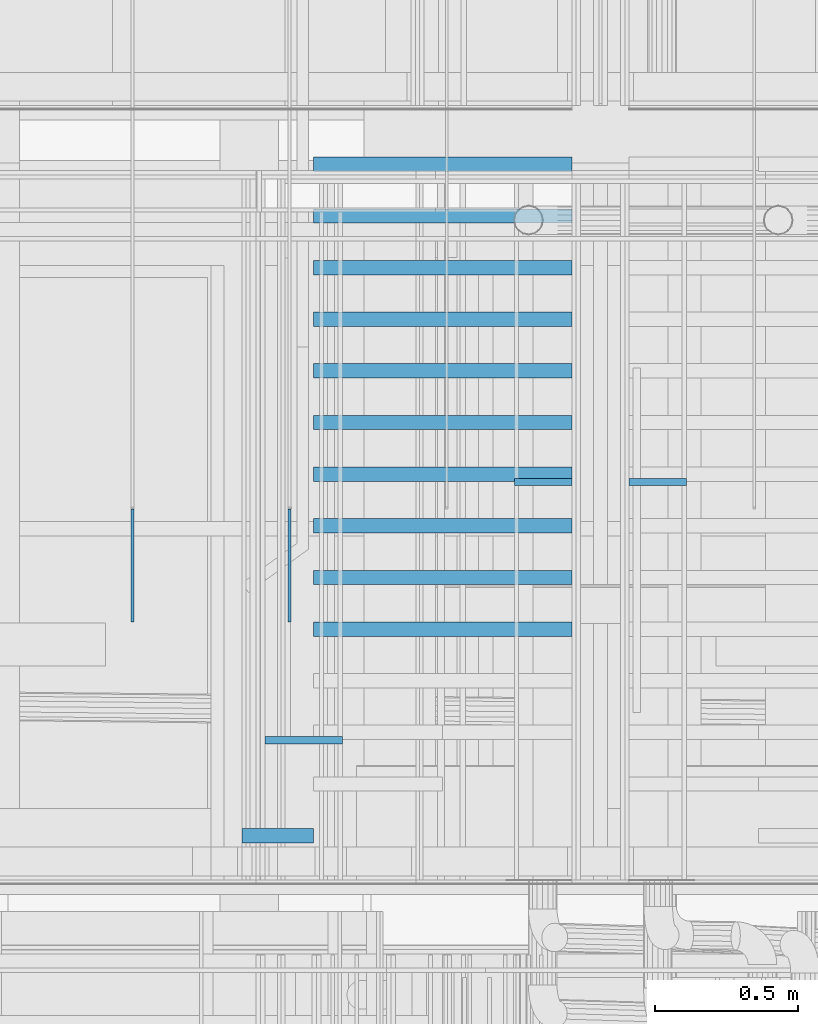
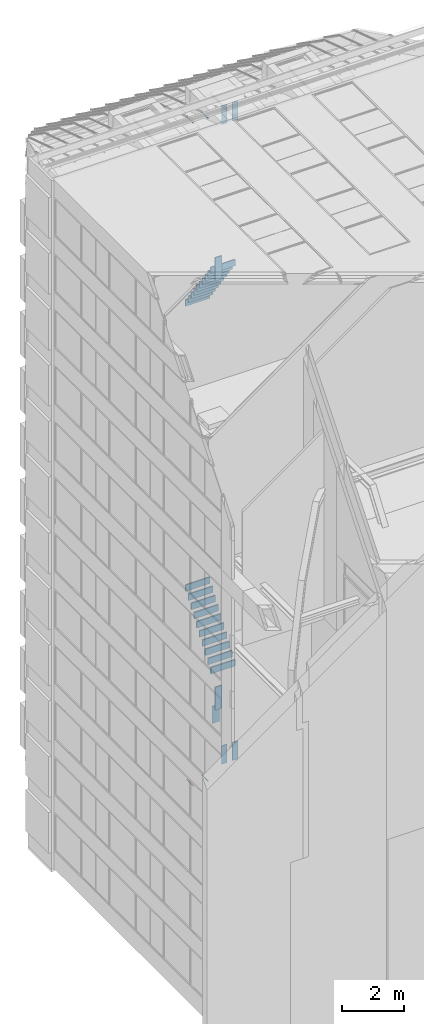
# One storey, part 303 of 583: 31 slabs.
"""IFC2X3 building model written with IfcOpenShell, lengths in metres."""

from ifc_helpers import new_model, entity, si_unit, converted_unit, derived_unit, money_unit, direction, frame, origin_with_axes, place, context, subcontext, project, spatial, faceted_brep, material, type_object, element, save


model = new_model("IFC2X3")

# Units and contexts
model_context = context("Model", 3, precision=1e-05, world=origin_with_axes(), true_north=direction((0.0, 1.0)))
body_context = subcontext(model_context, "Body", "Model", "MODEL_VIEW", scale=1.0)
ifc_project = project(units=[si_unit("LENGTHUNIT", "METRE"), si_unit("AREAUNIT", "SQUARE_METRE"), si_unit("VOLUMEUNIT", "CUBIC_METRE"), si_unit("ABSORBEDDOSEUNIT", "GRAY"), si_unit("AMOUNTOFSUBSTANCEUNIT", "MOLE"), si_unit("DOSEEQUIVALENTUNIT", "SIEVERT"), si_unit("ELECTRICCAPACITANCEUNIT", "FARAD"), si_unit("ELECTRICCHARGEUNIT", "COULOMB"), si_unit("ELECTRICCONDUCTANCEUNIT", "SIEMENS"), si_unit("ELECTRICCURRENTUNIT", "AMPERE"), si_unit("ELECTRICRESISTANCEUNIT", "OHM"), si_unit("ELECTRICVOLTAGEUNIT", "VOLT"), si_unit("ENERGYUNIT", "JOULE"), si_unit("FORCEUNIT", "NEWTON"), si_unit("FREQUENCYUNIT", "HERTZ"), si_unit("ILLUMINANCEUNIT", "LUX"), si_unit("INDUCTANCEUNIT", "HENRY"), si_unit("LUMINOUSFLUXUNIT", "LUMEN"), si_unit("LUMINOUSINTENSITYUNIT", "CANDELA"), si_unit("MAGNETICFLUXDENSITYUNIT", "TESLA"), si_unit("MAGNETICFLUXUNIT", "WEBER"), si_unit("MASSUNIT", "GRAM"), converted_unit("PLANEANGLEUNIT", "degree", entity("IfcReal", 0.0174532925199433), si_unit("PLANEANGLEUNIT", "RADIAN"), dimensions=[0, 0, 0, 0, 0, 0, 0]), si_unit("POWERUNIT", "WATT"), si_unit("PRESSUREUNIT", "PASCAL"), si_unit("RADIOACTIVITYUNIT", "BECQUEREL"), si_unit("SOLIDANGLEUNIT", "STERADIAN"), si_unit("THERMODYNAMICTEMPERATUREUNIT", "KELVIN"), si_unit("TIMEUNIT", "SECOND"), derived_unit("ACCELERATIONUNIT", [(si_unit("LENGTHUNIT", "METRE"), 1), (si_unit("TIMEUNIT", "SECOND"), -2)]), derived_unit("ANGULARVELOCITYUNIT", [(converted_unit("PLANEANGLEUNIT", "degree", entity("IfcReal", 0.0174532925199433), si_unit("PLANEANGLEUNIT", "RADIAN"), dimensions=[0, 0, 0, 0, 0, 0, 0]), 1), (si_unit("TIMEUNIT", "SECOND"), -1)]), derived_unit("CURVATUREUNIT", [(converted_unit("PLANEANGLEUNIT", "degree", entity("IfcReal", 0.0174532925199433), si_unit("PLANEANGLEUNIT", "RADIAN"), dimensions=[0, 0, 0, 0, 0, 0, 0]), 1), (si_unit("LENGTHUNIT", "METRE"), -1)]), derived_unit("DYNAMICVISCOSITYUNIT", [(si_unit("PRESSUREUNIT", "PASCAL"), 1), (si_unit("TIMEUNIT", "SECOND"), 1)]), derived_unit("HEATFLUXDENSITYUNIT", [(si_unit("POWERUNIT", "WATT"), 1), (si_unit("LENGTHUNIT", "METRE"), -2)]), derived_unit("HEATINGVALUEUNIT", [(si_unit("ENERGYUNIT", "JOULE"), 1), (si_unit("MASSUNIT", "GRAM"), -1)]), derived_unit("INTEGERCOUNTRATEUNIT", [(si_unit("TIMEUNIT", "SECOND"), -1)]), derived_unit("IONCONCENTRATIONUNIT", [(si_unit("MASSUNIT", "GRAM"), 1), (si_unit("VOLUMEUNIT", "CUBIC_METRE"), -1)]), derived_unit("ISOTHERMALMOISTURECAPACITYUNIT", [(si_unit("VOLUMEUNIT", "CUBIC_METRE"), 1), (si_unit("MASSUNIT", "GRAM"), -1)]), derived_unit("KINEMATICVISCOSITYUNIT", [(si_unit("AREAUNIT", "SQUARE_METRE"), 1), (si_unit("TIMEUNIT", "SECOND"), -1)]), derived_unit("LINEARFORCEUNIT", [(si_unit("FORCEUNIT", "NEWTON"), 1), (si_unit("LENGTHUNIT", "METRE"), -1)]), derived_unit("LINEARMOMENTUNIT", [(si_unit("FORCEUNIT", "NEWTON"), 1), (si_unit("LENGTHUNIT", "METRE"), -1)]), derived_unit("LINEARSTIFFNESSUNIT", [(si_unit("FORCEUNIT", "NEWTON"), 1), (si_unit("LENGTHUNIT", "METRE"), -1)]), derived_unit("LINEARVELOCITYUNIT", [(si_unit("LENGTHUNIT", "METRE"), 1), (si_unit("TIMEUNIT", "SECOND"), -1)]), derived_unit("LUMINOUSINTENSITYDISTRIBUTIONUNIT", [(si_unit("LUMINOUSINTENSITYUNIT", "CANDELA"), 1), (si_unit("LUMINOUSFLUXUNIT", "LUMEN"), -1)]), derived_unit("MASSDENSITYUNIT", [(si_unit("MASSUNIT", "GRAM"), 1), (si_unit("VOLUMEUNIT", "CUBIC_METRE"), -1)]), derived_unit("MASSFLOWRATEUNIT", [(si_unit("MASSUNIT", "GRAM"), 1), (si_unit("TIMEUNIT", "SECOND"), -1)]), derived_unit("MASSPERLENGTHUNIT", [(si_unit("MASSUNIT", "GRAM"), 1), (si_unit("LENGTHUNIT", "METRE"), -1)]), derived_unit("MODULUSOFELASTICITYUNIT", [(si_unit("FORCEUNIT", "NEWTON"), 1), (si_unit("AREAUNIT", "SQUARE_METRE"), -1)]), derived_unit("MODULUSOFLINEARSUBGRADEREACTIONUNIT", [(si_unit("FORCEUNIT", "NEWTON"), 1), (si_unit("LENGTHUNIT", "METRE"), -2)]), derived_unit("MODULUSOFROTATIONALSUBGRADEREACTIONUNIT", [(si_unit("FORCEUNIT", "NEWTON"), 1), (si_unit("LENGTHUNIT", "METRE"), 1)]), derived_unit("MODULUSOFSUBGRADEREACTIONUNIT", [(si_unit("FORCEUNIT", "NEWTON"), 1), (si_unit("VOLUMEUNIT", "CUBIC_METRE"), -1)]), derived_unit("MOISTUREDIFFUSIVITYUNIT", [(si_unit("VOLUMEUNIT", "CUBIC_METRE"), 1), (si_unit("TIMEUNIT", "SECOND"), -1)]), derived_unit("MOLECULARWEIGHTUNIT", [(si_unit("MASSUNIT", "GRAM"), 1), (si_unit("AMOUNTOFSUBSTANCEUNIT", "MOLE"), -1)]), derived_unit("PLANARFORCEUNIT", [(si_unit("FORCEUNIT", "NEWTON"), 1), (si_unit("LENGTHUNIT", "METRE"), -2)]), derived_unit("ROTATIONALFREQUENCYUNIT", [(si_unit("TIMEUNIT", "SECOND"), -1)]), derived_unit("ROTATIONALMASSUNIT", [(si_unit("MASSUNIT", "GRAM"), 1), (si_unit("LENGTHUNIT", "METRE"), 2)]), derived_unit("ROTATIONALSTIFFNESSUNIT", [(si_unit("FORCEUNIT", "NEWTON"), 1), (si_unit("LENGTHUNIT", "METRE"), 1), (converted_unit("PLANEANGLEUNIT", "degree", entity("IfcReal", 0.0174532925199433), si_unit("PLANEANGLEUNIT", "RADIAN"), dimensions=[0, 0, 0, 0, 0, 0, 0]), -1)]), derived_unit("SECTIONAREAINTEGRALUNIT", [(si_unit("LENGTHUNIT", "METRE"), 5)]), derived_unit("SECTIONMODULUSUNIT", [(si_unit("LENGTHUNIT", "METRE"), 3)]), derived_unit("SHEARMODULUSUNIT", [(si_unit("FORCEUNIT", "NEWTON"), 1), (si_unit("AREAUNIT", "SQUARE_METRE"), -1)]), derived_unit("SOUNDPOWERUNIT", [(si_unit("ENERGYUNIT", "JOULE"), 1), (si_unit("TIMEUNIT", "SECOND"), -1)]), derived_unit("SPECIFICHEATCAPACITYUNIT", [(si_unit("FORCEUNIT", "NEWTON"), 1), (si_unit("MASSUNIT", "GRAM"), -1), (si_unit("THERMODYNAMICTEMPERATUREUNIT", "KELVIN"), -1)]), derived_unit("TEMPERATUREGRADIENTUNIT", [(si_unit("THERMODYNAMICTEMPERATUREUNIT", "KELVIN"), 1), (si_unit("LENGTHUNIT", "METRE"), -1)]), derived_unit("THERMALADMITTANCEUNIT", [(si_unit("POWERUNIT", "WATT"), 1), (si_unit("AREAUNIT", "SQUARE_METRE"), -1), (si_unit("THERMODYNAMICTEMPERATUREUNIT", "KELVIN"), -1)]), derived_unit("THERMALCONDUCTANCEUNIT", [(si_unit("POWERUNIT", "WATT"), 1), (si_unit("LENGTHUNIT", "METRE"), -1), (si_unit("THERMODYNAMICTEMPERATUREUNIT", "KELVIN"), -1)]), derived_unit("THERMALEXPANSIONCOEFFICIENTUNIT", [(si_unit("THERMODYNAMICTEMPERATUREUNIT", "KELVIN"), -1)]), derived_unit("THERMALRESISTANCEUNIT", [(si_unit("AREAUNIT", "SQUARE_METRE"), 1), (si_unit("POWERUNIT", "WATT"), -1)]), derived_unit("THERMALTRANSMITTANCEUNIT", [(si_unit("POWERUNIT", "WATT"), 1), (si_unit("AREAUNIT", "SQUARE_METRE"), -1), (si_unit("THERMODYNAMICTEMPERATUREUNIT", "KELVIN"), -1)]), derived_unit("TORQUEUNIT", [(si_unit("FORCEUNIT", "NEWTON"), 1), (si_unit("LENGTHUNIT", "METRE"), 1)]), derived_unit("VAPORPERMEABILITYUNIT", [(si_unit("MASSUNIT", "GRAM"), 1), (si_unit("TIMEUNIT", "SECOND"), -1)]), derived_unit("VOLUMETRICFLOWRATEUNIT", [(si_unit("VOLUMEUNIT", "CUBIC_METRE"), 1), (si_unit("TIMEUNIT", "SECOND"), -1)]), derived_unit("WARPINGCONSTANTUNIT", [(si_unit("LENGTHUNIT", "METRE"), 6)]), derived_unit("WARPINGMOMENTUNIT", [(si_unit("FORCEUNIT", "NEWTON"), 1), (si_unit("LENGTHUNIT", "METRE"), 2)]), money_unit("GBP")], contexts=[model_context])

# Site, building, storey
site_placement = place(None, origin_with_axes())
site = spatial("IfcSite", under=ifc_project, at=site_placement, Name="Site", CompositionType="ELEMENT")
building_placement = place(site_placement, origin_with_axes())
building = spatial("IfcBuilding", under=site, at=building_placement, Name="Building01", CompositionType="ELEMENT")
storey_placement = place(building_placement, frame((0.0, 0.0, 20.78), z_axis=(0.0, 0.0, 1.0), x_axis=(1.0, 0.0, 0.0)))
storey = spatial("IfcBuildingStorey", under=building, at=storey_placement, Name="RL", CompositionType="ELEMENT", Elevation=20.78)

# Slabs
ifc_material_1 = material(Name="A_BSUK_Ceramic_WallTiles")
slab_type = type_object("IfcSlabType", Name="A-FloorsSlabs A_BSUK_Slabs", PredefinedType="FLOOR")
placement = place(storey_placement, frame((0.0, 0.0, -20.78), z_axis=(0.0, 0.0, 1.0), x_axis=(1.0, 0.0, 0.0)))
element("IfcSlab", 1, at=placement, inside=storey, type_object=slab_type, material=ifc_material_1, Name="A-FloorsSlabs A_BSUK_Slabs", ObjectType="CompoundSlabLeaf", context=body_context, shape_type="Brep", body=[
    faceted_brep([(6.279939, 15.455, 3.039976), (6.279939, 15.48, 3.039976), (6.549939, 15.48, 3.039976), (6.549939, 15.455, 3.039976), (6.279939, 15.455, 3.715111), (6.279939, 15.48, 3.715111), (6.549939, 15.455, 3.715111), (6.549939, 15.48, 3.715111)], [[[0, 1, 2, 3]], [[4, 5, 1, 0]], [[6, 7, 5, 4]], [[3, 2, 7, 6]], [[1, 5, 7, 2]], [[3, 6, 4, 0]]]),
])
element("IfcSlab", 2, at=placement, inside=storey, type_object=slab_type, material=ifc_material_1, Name="A-FloorsSlabs A_BSUK_Slabs", ObjectType="CompoundSlabLeaf", context=body_context, shape_type="Brep", body=[
    faceted_brep([(7.749913, 16.355, 26.380061), (7.749913, 16.38, 26.380061), (7.549915, 16.38, 26.380061), (7.549915, 16.355, 26.380061), (7.749913, 16.355, 25.658821), (7.749913, 16.38, 25.658821), (7.549915, 16.355, 25.658821), (7.549915, 16.38, 25.658821)], [[[0, 1, 2, 3]], [[4, 5, 1, 0]], [[6, 7, 5, 4]], [[3, 2, 7, 6]], [[1, 5, 7, 2]], [[3, 6, 4, 0]]]),
])
element("IfcSlab", 3, at=placement, inside=storey, type_object=slab_type, material=ifc_material_1, Name="A-FloorsSlabs A_BSUK_Slabs", ObjectType="CompoundSlabLeaf", context=body_context, shape_type="Brep", body=[
    faceted_brep([(7.349964, 16.355, 26.380061), (7.349964, 16.38, 26.380061), (7.149966, 16.38, 26.380061), (7.149966, 16.355, 26.380061), (7.349964, 16.355, 25.658821), (7.349964, 16.38, 25.658821), (7.149966, 16.355, 25.658821), (7.149966, 16.38, 25.658821)], [[[0, 1, 2, 3]], [[4, 5, 1, 0]], [[6, 7, 5, 4]], [[3, 2, 7, 6]], [[1, 5, 7, 2]], [[3, 6, 4, 0]]]),
])
ifc_material_2 = material(Name="A_BSUK_Slabs")
element("IfcSlab", 4, at=placement, inside=storey, type_object=slab_type, material=ifc_material_2, Name="A-FloorsSlabs A_BSUK_Slabs", ObjectType="CompoundSlabLeaf", context=body_context, shape_type="Brep", body=[
    faceted_brep([(7.349939, 17.45, 6.945111), (7.349939, 17.5, 6.945111), (7.349939, 17.5, 7.195111), (7.349939, 17.45, 7.195111), (6.449939, 17.45, 6.945111), (6.449939, 17.5, 6.945111), (6.449939, 17.45, 7.195111), (6.449939, 17.5, 7.195111)], [[[0, 1, 2, 3]], [[4, 5, 1, 0]], [[6, 7, 5, 4]], [[3, 2, 7, 6]], [[1, 5, 7, 2]], [[3, 6, 4, 0]]]),
])
element("IfcSlab", 5, at=placement, inside=storey, type_object=slab_type, material=ifc_material_2, Name="A-FloorsSlabs A_BSUK_Slabs", ObjectType="CompoundSlabLeaf", context=body_context, shape_type="Brep", body=[
    faceted_brep([(7.349939, 17.27, 6.695111), (7.349939, 17.32, 6.695111), (7.349939, 17.32, 6.945111), (7.349939, 17.27, 6.945111), (6.449939, 17.27, 6.695111), (6.449939, 17.32, 6.695111), (6.449939, 17.27, 6.945111), (6.449939, 17.32, 6.945111)], [[[0, 1, 2, 3]], [[4, 5, 1, 0]], [[6, 7, 5, 4]], [[3, 2, 7, 6]], [[1, 5, 7, 2]], [[3, 6, 4, 0]]]),
])
element("IfcSlab", 6, at=placement, inside=storey, type_object=slab_type, material=ifc_material_2, Name="A-FloorsSlabs A_BSUK_Slabs", ObjectType="CompoundSlabLeaf", context=body_context, shape_type="Brep", body=[
    faceted_brep([(7.349939, 17.09, 6.445111), (7.349939, 17.14, 6.445111), (7.349939, 17.14, 6.695111), (7.349939, 17.09, 6.695111), (6.449939, 17.09, 6.445111), (6.449939, 17.14, 6.445111), (6.449939, 17.09, 6.695111), (6.449939, 17.14, 6.695111)], [[[0, 1, 2, 3]], [[4, 5, 1, 0]], [[6, 7, 5, 4]], [[3, 2, 7, 6]], [[1, 5, 7, 2]], [[3, 6, 4, 0]]]),
])
element("IfcSlab", 7, at=placement, inside=storey, type_object=slab_type, material=ifc_material_2, Name="A-FloorsSlabs A_BSUK_Slabs", ObjectType="CompoundSlabLeaf", context=body_context, shape_type="Brep", body=[
    faceted_brep([(7.349939, 16.91, 6.195111), (7.349939, 16.96, 6.195111), (7.349939, 16.96, 6.445111), (7.349939, 16.91, 6.445111), (6.449939, 16.91, 6.195111), (6.449939, 16.96, 6.195111), (6.449939, 16.91, 6.445111), (6.449939, 16.96, 6.445111)], [[[0, 1, 2, 3]], [[4, 5, 1, 0]], [[6, 7, 5, 4]], [[3, 2, 7, 6]], [[1, 5, 7, 2]], [[3, 6, 4, 0]]]),
])
element("IfcSlab", 8, at=placement, inside=storey, type_object=slab_type, material=ifc_material_2, Name="A-FloorsSlabs A_BSUK_Slabs", ObjectType="CompoundSlabLeaf", context=body_context, shape_type="Brep", body=[
    faceted_brep([(7.349939, 16.73, 5.945111), (7.349939, 16.78, 5.945111), (7.349939, 16.78, 6.195111), (7.349939, 16.73, 6.195111), (6.449939, 16.73, 5.945111), (6.449939, 16.78, 5.945111), (6.449939, 16.73, 6.195111), (6.449939, 16.78, 6.195111)], [[[0, 1, 2, 3]], [[4, 5, 1, 0]], [[6, 7, 5, 4]], [[3, 2, 7, 6]], [[1, 5, 7, 2]], [[3, 6, 4, 0]]]),
])
element("IfcSlab", 9, at=placement, inside=storey, type_object=slab_type, material=ifc_material_2, Name="A-FloorsSlabs A_BSUK_Slabs", ObjectType="CompoundSlabLeaf", context=body_context, shape_type="Brep", body=[
    faceted_brep([(7.349939, 16.55, 5.695111), (7.349939, 16.6, 5.695111), (7.349939, 16.6, 5.945111), (7.349939, 16.55, 5.945111), (6.449939, 16.55, 5.695111), (6.449939, 16.6, 5.695111), (6.449939, 16.55, 5.945111), (6.449939, 16.6, 5.945111)], [[[0, 1, 2, 3]], [[4, 5, 1, 0]], [[6, 7, 5, 4]], [[3, 2, 7, 6]], [[1, 5, 7, 2]], [[3, 6, 4, 0]]]),
])
element("IfcSlab", 10, at=placement, inside=storey, type_object=slab_type, material=ifc_material_2, Name="A-FloorsSlabs A_BSUK_Slabs", ObjectType="CompoundSlabLeaf", context=body_context, shape_type="Brep", body=[
    faceted_brep([(7.349939, 16.37, 5.445111), (7.349939, 16.42, 5.445111), (7.349939, 16.42, 5.695111), (7.349939, 16.37, 5.695111), (6.449939, 16.37, 5.445111), (6.449939, 16.42, 5.445111), (6.449939, 16.37, 5.695111), (6.449939, 16.42, 5.695111)], [[[0, 1, 2, 3]], [[4, 5, 1, 0]], [[6, 7, 5, 4]], [[3, 2, 7, 6]], [[1, 5, 7, 2]], [[3, 6, 4, 0]]]),
])
element("IfcSlab", 11, at=placement, inside=storey, type_object=slab_type, material=ifc_material_2, Name="A-FloorsSlabs A_BSUK_Slabs", ObjectType="CompoundSlabLeaf", context=body_context, shape_type="Brep", body=[
    faceted_brep([(7.349939, 16.19, 5.195111), (7.349939, 16.24, 5.195111), (7.349939, 16.24, 5.445111), (7.349939, 16.19, 5.445111), (6.449939, 16.19, 5.195111), (6.449939, 16.24, 5.195111), (6.449939, 16.19, 5.445111), (6.449939, 16.24, 5.445111)], [[[0, 1, 2, 3]], [[4, 5, 1, 0]], [[6, 7, 5, 4]], [[3, 2, 7, 6]], [[1, 5, 7, 2]], [[3, 6, 4, 0]]]),
])
element("IfcSlab", 12, at=placement, inside=storey, type_object=slab_type, material=ifc_material_2, Name="A-FloorsSlabs A_BSUK_Slabs", ObjectType="CompoundSlabLeaf", context=body_context, shape_type="Brep", body=[
    faceted_brep([(7.349939, 16.01, 4.945111), (7.349939, 16.06, 4.945111), (7.349939, 16.06, 5.195111), (7.349939, 16.01, 5.195111), (6.449939, 16.01, 4.945111), (6.449939, 16.06, 4.945111), (6.449939, 16.01, 5.195111), (6.449939, 16.06, 5.195111)], [[[0, 1, 2, 3]], [[4, 5, 1, 0]], [[6, 7, 5, 4]], [[3, 2, 7, 6]], [[1, 5, 7, 2]], [[3, 6, 4, 0]]]),
])
element("IfcSlab", 13, at=placement, inside=storey, type_object=slab_type, material=ifc_material_2, Name="A-FloorsSlabs A_BSUK_Slabs", ObjectType="CompoundSlabLeaf", context=body_context, shape_type="Brep", body=[
    faceted_brep([(7.349939, 15.83, 4.695111), (7.349939, 15.88, 4.695111), (7.349939, 15.88, 4.945111), (7.349939, 15.83, 4.945111), (6.449939, 15.83, 4.695111), (6.449939, 15.88, 4.695111), (6.449939, 15.83, 4.945111), (6.449939, 15.88, 4.945111)], [[[0, 1, 2, 3]], [[4, 5, 1, 0]], [[6, 7, 5, 4]], [[3, 2, 7, 6]], [[1, 5, 7, 2]], [[3, 6, 4, 0]]]),
])
element("IfcSlab", 14, at=placement, inside=storey, type_object=slab_type, material=ifc_material_2, Name="A-FloorsSlabs A_BSUK_Slabs", ObjectType="CompoundSlabLeaf", context=body_context, shape_type="Brep", body=[
    faceted_brep([(6.449939, 15.11, 4.695111), (6.449939, 15.16, 4.695111), (6.199939, 15.16, 4.695111), (6.199939, 15.11, 4.695111), (6.449939, 15.11, 3.795111), (6.449939, 15.16, 3.795111), (6.199939, 15.11, 3.795111), (6.199939, 15.16, 3.795111)], [[[0, 1, 2, 3]], [[4, 5, 1, 0]], [[6, 7, 5, 4]], [[3, 2, 7, 6]], [[1, 5, 7, 2]], [[3, 6, 4, 0]]]),
])
element("IfcSlab", 15, at=placement, inside=storey, type_object=slab_type, material=ifc_material_2, Name="A-FloorsSlabs A_BSUK_Slabs", ObjectType="CompoundSlabLeaf", context=body_context, shape_type="Brep", body=[
    faceted_brep([(7.349939, 17.45, 18.11844), (7.349939, 17.5, 18.11844), (7.349939, 17.5, 18.36844), (7.349939, 17.45, 18.36844), (6.449939, 17.45, 18.11844), (6.449939, 17.5, 18.11844), (6.449939, 17.45, 18.36844), (6.449939, 17.5, 18.36844)], [[[0, 1, 2, 3]], [[4, 5, 1, 0]], [[6, 7, 5, 4]], [[3, 2, 7, 6]], [[1, 5, 7, 2]], [[3, 6, 4, 0]]]),
])
element("IfcSlab", 16, at=placement, inside=storey, type_object=slab_type, material=ifc_material_2, Name="A-FloorsSlabs A_BSUK_Slabs", ObjectType="CompoundSlabLeaf", context=body_context, shape_type="Brep", body=[
    faceted_brep([(7.349939, 17.27, 18.36844), (7.349939, 17.32, 18.36844), (7.349939, 17.32, 18.61844), (7.349939, 17.27, 18.61844), (6.449939, 17.27, 18.36844), (6.449939, 17.32, 18.36844), (6.449939, 17.27, 18.61844), (6.449939, 17.32, 18.61844)], [[[0, 1, 2, 3]], [[4, 5, 1, 0]], [[6, 7, 5, 4]], [[3, 2, 7, 6]], [[1, 5, 7, 2]], [[3, 6, 4, 0]]]),
])
element("IfcSlab", 17, at=placement, inside=storey, type_object=slab_type, material=ifc_material_2, Name="A-FloorsSlabs A_BSUK_Slabs", ObjectType="CompoundSlabLeaf", context=body_context, shape_type="Brep", body=[
    faceted_brep([(7.349939, 17.09, 18.61844), (7.349939, 17.14, 18.61844), (7.349939, 17.14, 18.86844), (7.349939, 17.09, 18.86844), (6.449939, 17.09, 18.61844), (6.449939, 17.14, 18.61844), (6.449939, 17.09, 18.86844), (6.449939, 17.14, 18.86844)], [[[0, 1, 2, 3]], [[4, 5, 1, 0]], [[6, 7, 5, 4]], [[3, 2, 7, 6]], [[1, 5, 7, 2]], [[3, 6, 4, 0]]]),
])
element("IfcSlab", 18, at=placement, inside=storey, type_object=slab_type, material=ifc_material_2, Name="A-FloorsSlabs A_BSUK_Slabs", ObjectType="CompoundSlabLeaf", context=body_context, shape_type="Brep", body=[
    faceted_brep([(7.349939, 16.91, 18.86844), (7.349939, 16.96, 18.86844), (7.349939, 16.96, 19.11844), (7.349939, 16.91, 19.11844), (6.449939, 16.91, 18.86844), (6.449939, 16.96, 18.86844), (6.449939, 16.91, 19.11844), (6.449939, 16.96, 19.11844)], [[[0, 1, 2, 3]], [[4, 5, 1, 0]], [[6, 7, 5, 4]], [[3, 2, 7, 6]], [[1, 5, 7, 2]], [[3, 6, 4, 0]]]),
])
element("IfcSlab", 19, at=placement, inside=storey, type_object=slab_type, material=ifc_material_2, Name="A-FloorsSlabs A_BSUK_Slabs", ObjectType="CompoundSlabLeaf", context=body_context, shape_type="Brep", body=[
    faceted_brep([(7.349939, 16.73, 19.11844), (7.349939, 16.78, 19.11844), (7.349939, 16.78, 19.36844), (7.349939, 16.73, 19.36844), (6.449939, 16.73, 19.11844), (6.449939, 16.78, 19.11844), (6.449939, 16.73, 19.36844), (6.449939, 16.78, 19.36844)], [[[0, 1, 2, 3]], [[4, 5, 1, 0]], [[6, 7, 5, 4]], [[3, 2, 7, 6]], [[1, 5, 7, 2]], [[3, 6, 4, 0]]]),
])
element("IfcSlab", 20, at=placement, inside=storey, type_object=slab_type, material=ifc_material_2, Name="A-FloorsSlabs A_BSUK_Slabs", ObjectType="CompoundSlabLeaf", context=body_context, shape_type="Brep", body=[
    faceted_brep([(7.349939, 16.55, 19.36844), (7.349939, 16.6, 19.36844), (7.349939, 16.6, 19.61844), (7.349939, 16.55, 19.61844), (6.449939, 16.55, 19.36844), (6.449939, 16.6, 19.36844), (6.449939, 16.55, 19.61844), (6.449939, 16.6, 19.61844)], [[[0, 1, 2, 3]], [[4, 5, 1, 0]], [[6, 7, 5, 4]], [[3, 2, 7, 6]], [[1, 5, 7, 2]], [[3, 6, 4, 0]]]),
])
element("IfcSlab", 21, at=placement, inside=storey, type_object=slab_type, material=ifc_material_2, Name="A-FloorsSlabs A_BSUK_Slabs", ObjectType="CompoundSlabLeaf", context=body_context, shape_type="Brep", body=[
    faceted_brep([(7.349939, 16.37, 19.61844), (7.349939, 16.42, 19.61844), (7.349939, 16.42, 19.86844), (7.349939, 16.37, 19.86844), (6.449939, 16.37, 19.61844), (6.449939, 16.42, 19.61844), (6.449939, 16.37, 19.86844), (6.449939, 16.42, 19.86844)], [[[0, 1, 2, 3]], [[4, 5, 1, 0]], [[6, 7, 5, 4]], [[3, 2, 7, 6]], [[1, 5, 7, 2]], [[3, 6, 4, 0]]]),
])
element("IfcSlab", 22, at=placement, inside=storey, type_object=slab_type, material=ifc_material_2, Name="A-FloorsSlabs A_BSUK_Slabs", ObjectType="CompoundSlabLeaf", context=body_context, shape_type="Brep", body=[
    faceted_brep([(7.349939, 16.19, 19.86844), (7.349939, 16.24, 19.86844), (7.349939, 16.24, 20.11844), (7.349939, 16.19, 20.11844), (6.449939, 16.19, 19.86844), (6.449939, 16.24, 19.86844), (6.449939, 16.19, 20.11844), (6.449939, 16.24, 20.11844)], [[[0, 1, 2, 3]], [[4, 5, 1, 0]], [[6, 7, 5, 4]], [[3, 2, 7, 6]], [[1, 5, 7, 2]], [[3, 6, 4, 0]]]),
])
element("IfcSlab", 23, at=placement, inside=storey, type_object=slab_type, material=ifc_material_2, Name="A-FloorsSlabs A_BSUK_Slabs", ObjectType="CompoundSlabLeaf", context=body_context, shape_type="Brep", body=[
    faceted_brep([(7.349939, 16.01, 20.11844), (7.349939, 16.06, 20.11844), (7.349939, 16.06, 20.36844), (7.349939, 16.01, 20.36844), (6.449939, 16.01, 20.11844), (6.449939, 16.06, 20.11844), (6.449939, 16.01, 20.36844), (6.449939, 16.06, 20.36844)], [[[0, 1, 2, 3]], [[4, 5, 1, 0]], [[6, 7, 5, 4]], [[3, 2, 7, 6]], [[1, 5, 7, 2]], [[3, 6, 4, 0]]]),
])
element("IfcSlab", 24, at=placement, inside=storey, type_object=slab_type, material=ifc_material_2, Name="A-FloorsSlabs A_BSUK_Slabs", ObjectType="CompoundSlabLeaf", context=body_context, shape_type="Brep", body=[
    faceted_brep([(7.349939, 15.83, 20.36844), (7.349939, 15.88, 20.36844), (7.349939, 15.88, 20.61844), (7.349939, 15.83, 20.61844), (6.449939, 15.83, 20.36844), (6.449939, 15.88, 20.36844), (6.449939, 15.83, 20.61844), (6.449939, 15.88, 20.61844)], [[[0, 1, 2, 3]], [[4, 5, 1, 0]], [[6, 7, 5, 4]], [[3, 2, 7, 6]], [[1, 5, 7, 2]], [[3, 6, 4, 0]]]),
])
element("IfcSlab", 25, at=placement, inside=storey, type_object=slab_type, material=ifc_material_2, Name="A-FloorsSlabs A_BSUK_Slabs", ObjectType="CompoundSlabLeaf", context=body_context, shape_type="Brep", body=[
    faceted_brep([(6.199939, 15.11, 20.61844), (6.199939, 15.16, 20.61844), (6.449939, 15.16, 20.61844), (6.449939, 15.11, 20.61844), (6.199939, 15.11, 21.51844), (6.199939, 15.16, 21.51844), (6.449939, 15.11, 21.51844), (6.449939, 15.16, 21.51844)], [[[0, 1, 2, 3]], [[4, 5, 1, 0]], [[6, 7, 5, 4]], [[3, 2, 7, 6]], [[1, 5, 7, 2]], [[3, 6, 4, 0]]]),
])
element("IfcSlab", 26, at=placement, inside=storey, type_object=slab_type, material=ifc_material_1, Name="A-FloorsSlabs A_BSUK_Slabs", ObjectType="CompoundSlabLeaf", context=body_context, shape_type="Brep", body=[
    faceted_brep([(7.14994, 16.355, 0.593871), (7.14994, 16.38, 0.593871), (7.349938, 16.38, 0.593871), (7.349938, 16.355, 0.593871), (7.14994, 16.355, 1.315111), (7.14994, 16.38, 1.315111), (7.349938, 16.355, 1.315111), (7.349938, 16.38, 1.315111)], [[[0, 1, 2, 3]], [[4, 5, 1, 0]], [[6, 7, 5, 4]], [[3, 2, 7, 6]], [[1, 5, 7, 2]], [[3, 6, 4, 0]]]),
])
element("IfcSlab", 27, at=placement, inside=storey, type_object=slab_type, material=ifc_material_1, Name="A-FloorsSlabs A_BSUK_Slabs", ObjectType="CompoundSlabLeaf", context=body_context, shape_type="Brep", body=[
    faceted_brep([(7.550063, 16.355, 0.593871), (7.550063, 16.38, 0.593871), (7.75006, 16.38, 0.593871), (7.75006, 16.355, 0.593871), (7.550063, 16.355, 1.315111), (7.550063, 16.38, 1.315111), (7.75006, 16.355, 1.315111), (7.75006, 16.38, 1.315111)], [[[0, 1, 2, 3]], [[4, 5, 1, 0]], [[6, 7, 5, 4]], [[3, 2, 7, 6]], [[1, 5, 7, 2]], [[3, 6, 4, 0]]]),
])
ifc_material_3 = material(Name="A_BSUK_Roofs")
for number, where, z_axis, x_axis, name in (
    (28, (5.813975, 15.034499, 5.68), (0.0, 1.0, 0.0), (1.0, 0.0, 0.0), "A-FloorsSlabs A_BSUK_Slabs"),
    (29, (6.361475, 15.034499, 5.68), (0.0, 1.0, 0.0), (1.0, 0.0, 0.0), "A-FloorsSlabs A_BSUK_Slabs"),
):
    element("IfcSlab", number, at=place(storey_placement, frame(where, z_axis=z_axis, x_axis=x_axis)), inside=storey, type_object=slab_type, material=ifc_material_3, Name=name, ObjectType="A-FloorsSlabs A_BSUK_Slabs", context=body_context, shape_type="Brep", body=[
        faceted_brep([(0.0, 0.0, 0.845501), (0.0, -0.02, 0.845501), (0.0, -0.02, 1.239928), (0.0, 0.0, 1.239928), (0.01, 0.0, 0.845501), (0.01, -0.02, 0.845501), (0.01, 0.0, 1.239928), (0.01, -0.02, 1.239928)], [[[0, 1, 2, 3]], [[4, 5, 1, 0]], [[6, 7, 5, 4]], [[3, 2, 7, 6]], [[1, 5, 7, 2]], [[3, 6, 4, 0]]]),
    ])
for number, where, z_axis, x_axis, name in (
    (30, (5.813975, 15.034499, -20.26), (0.0, 1.0, 0.0), (-1.0, 0.0, 0.0), "A-FloorsSlabs A_BSUK_Slabs"),
    (31, (6.361475, 15.034499, -20.26), (0.0, 1.0, 0.0), (-1.0, 0.0, 0.0), "A-FloorsSlabs A_BSUK_Slabs"),
):
    element("IfcSlab", number, at=place(storey_placement, frame(where, z_axis=z_axis, x_axis=x_axis)), inside=storey, type_object=slab_type, material=ifc_material_3, Name=name, ObjectType="A-FloorsSlabs A_BSUK_Slabs", context=body_context, shape_type="Brep", body=[
        faceted_brep([(0.0, 0.0, 1.239928), (0.0, -0.02, 1.239928), (0.0, -0.02, 0.845501), (0.0, 0.0, 0.845501), (-0.01, -0.02, 0.845501), (-0.01, 0.0, 0.845501), (-0.01, -0.02, 1.239928), (-0.01, 0.0, 1.239928)], [[[0, 1, 2, 3]], [[3, 2, 4, 5]], [[5, 4, 6, 7]], [[7, 6, 1, 0]], [[1, 6, 4, 2]], [[3, 5, 7, 0]]]),
    ])

save(model, "model.ifc")
